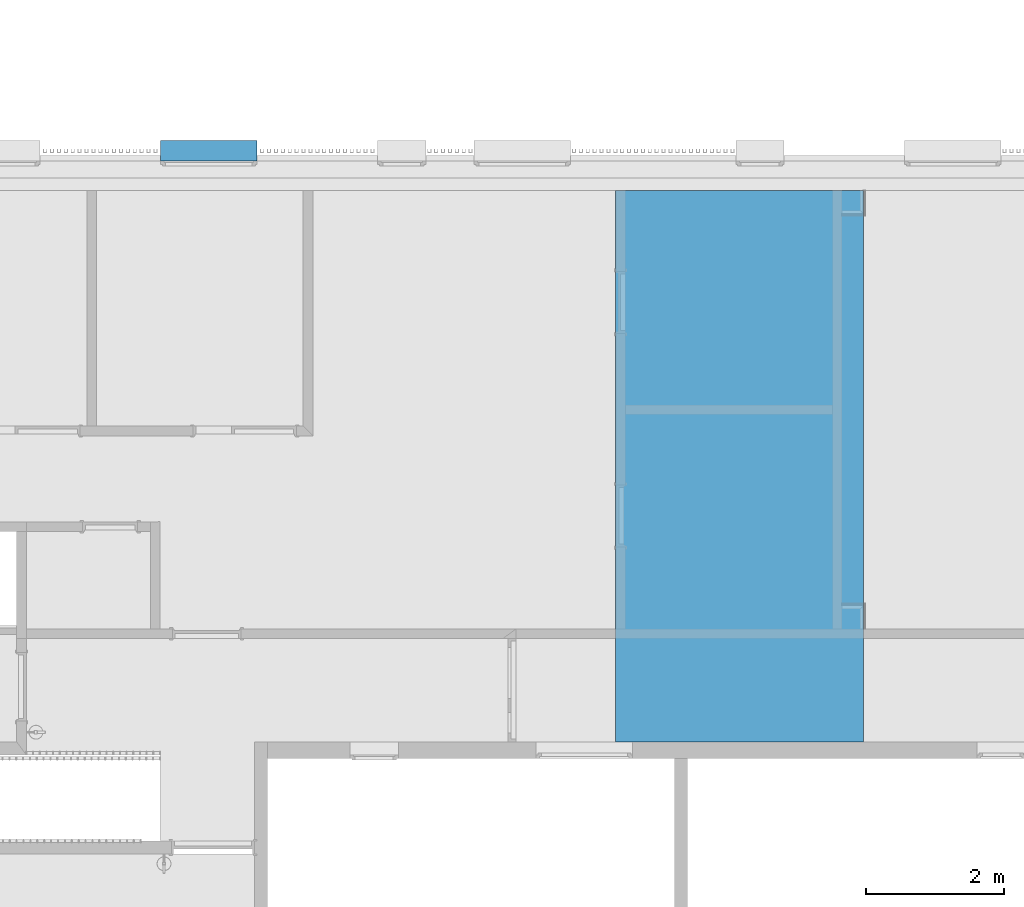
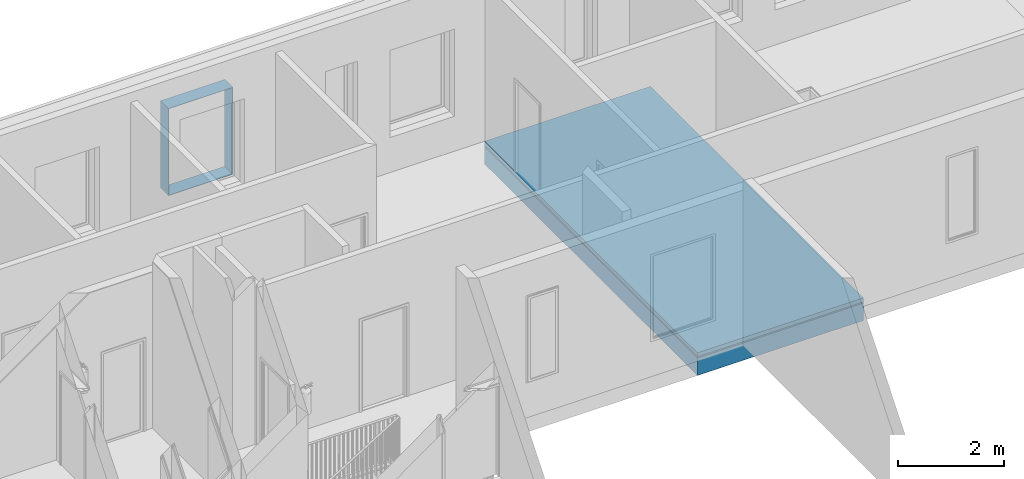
# One storey, part 21 of 100: 3 building element parts, 1 discrete accessory, 1 element without a shape of its own.
"""IFC2X3 building model written with IfcOpenShell, lengths in millimetres."""

from ifc_helpers import new_model, entity, si_unit, converted_unit, derived_unit, money_unit, direction, frame, origin_with_axes, place, context, subcontext, project, spatial, polyline, outline, extrude, faceted_brep, source, transform, mapped, material, type_object, element, aggregate, save


model = new_model("IFC2X3")

# Units and contexts
model_context = context("Model", 3, precision=0.01, world=origin_with_axes(), true_north=direction((0.0, 1.0)))
body_context = subcontext(model_context, "Body", "Model", "MODEL_VIEW")
ifc_project = project(units=[si_unit("LENGTHUNIT", "METRE", prefix="MILLI"), si_unit("AREAUNIT", "SQUARE_METRE"), si_unit("VOLUMEUNIT", "CUBIC_METRE"), converted_unit("PLANEANGLEUNIT", "DEGREE", entity("IfcPlaneAngleMeasure", 0.0174532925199), si_unit("PLANEANGLEUNIT", "RADIAN"), dimensions=[0, 0, 0, 0, 0, 0, 0]), si_unit("SOLIDANGLEUNIT", "STERADIAN"), money_unit("EUR"), converted_unit("TIMEUNIT", "Year", entity("IfcTimeMeasure", 31556926.0), si_unit("TIMEUNIT", "SECOND"), dimensions=[0, 0, 1, 0, 0, 0, 0]), si_unit("MASSUNIT", "GRAM", prefix="KILO"), si_unit("THERMODYNAMICTEMPERATUREUNIT", "DEGREE_CELSIUS"), si_unit("LUMINOUSINTENSITYUNIT", "LUMEN"), si_unit("ENERGYUNIT", "JOULE", prefix="MEGA"), derived_unit("THERMALCONDUCTANCEUNIT", [(si_unit("POWERUNIT", "WATT"), 1), (si_unit("LENGTHUNIT", "METRE"), -1), (si_unit("THERMODYNAMICTEMPERATUREUNIT", "KELVIN"), -1)]), derived_unit("SPECIFICHEATCAPACITYUNIT", [(si_unit("ENERGYUNIT", "JOULE"), 1), (si_unit("MASSUNIT", "GRAM", prefix="KILO"), -1), (si_unit("THERMODYNAMICTEMPERATUREUNIT", "KELVIN"), -1)]), derived_unit("MASSDENSITYUNIT", [(si_unit("MASSUNIT", "GRAM", prefix="KILO"), 1), (si_unit("VOLUMEUNIT", "CUBIC_METRE"), -1)])], contexts=[model_context])

# Site, building, storey
site_placement = place(None, origin_with_axes())
site = spatial("IfcSite", under=ifc_project, at=site_placement, Name="Politse- ja Piirivalveameti ning Päästeameti ühishoone", CompositionType="ELEMENT")
building_placement = place(site_placement, origin_with_axes())
building = spatial("IfcBuilding", under=site, at=building_placement, Name="Politse- ja Piirivalveameti ning Päästeameti ühishoone", CompositionType="ELEMENT")
storey_placement = place(building_placement, frame((0.0, 0.0, 3800.0), z_axis=(0.0, 0.0, 1.0), x_axis=(1.0, 0.0, 0.0)))
storey = spatial("IfcBuildingStorey", under=building, at=storey_placement, Name="Teine korrus", CompositionType="ELEMENT", Elevation=3800.0)

# Discrete accessory
ifc_material_1 = material(Name="SV-01_Krohv - Kips")
discrete_accessory_type = type_object("IfcDiscreteAccessoryType", Name="Architrave 01 23")
shared_shape = source(origin_with_axes(), body_context, "Body", "Brep", [
    faceted_brep([(700.0, 0.0, -10.0), (700.0, -300.182356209, -10.0), (-700.0, -300.182356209, -10.0), (-700.0, 0.0, -10.0), (690.0, 0.0, 0.0), (690.0, -300.182356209, 0.0), (-690.0, -300.182356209, 0.0), (-690.0, 0.0, 0.0)], [[[0, 1, 2, 3]], [[4, 5, 1, 0]], [[1, 5, 6, 2]], [[3, 2, 6, 7]], [[0, 3, 7, 4]], [[7, 6, 5, 4]]]),
    faceted_brep([(-700.0, 0.0, -10.0), (-700.0, -300.182356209, -10.0), (-700.0, -300.182356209, 1990.0), (-700.0, 0.0, 1990.0), (-690.0, 0.0, 0.0), (-690.0, -300.182356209, 0.0), (-690.0, -300.182356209, 1980.0), (-690.0, 0.0, 1980.0)], [[[0, 1, 2, 3]], [[4, 5, 1, 0]], [[1, 5, 6, 2]], [[3, 2, 6, 7]], [[0, 3, 7, 4]], [[7, 6, 5, 4]]]),
    faceted_brep([(-700.0, 0.0, 1990.0), (-700.0, -300.182356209, 1990.0), (700.0, -300.182356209, 1990.0), (700.0, 0.0, 1990.0), (-690.0, 0.0, 1980.0), (-690.0, -300.182356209, 1980.0), (690.0, -300.182356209, 1980.0), (690.0, 0.0, 1980.0)], [[[0, 1, 2, 3]], [[4, 5, 1, 0]], [[1, 5, 6, 2]], [[3, 2, 6, 7]], [[0, 3, 7, 4]], [[7, 6, 5, 4]]]),
    faceted_brep([(700.0, 0.0, 1990.0), (700.0, -300.182356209, 1990.0), (700.0, -300.182356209, -10.0), (700.0, 0.0, -10.0), (690.0, 0.0, 1980.0), (690.0, -300.182356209, 1980.0), (690.0, -300.182356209, 0.0), (690.0, 0.0, 0.0)], [[[0, 1, 2, 3]], [[4, 5, 1, 0]], [[1, 5, 6, 2]], [[3, 2, 6, 7]], [[0, 3, 7, 4]], [[7, 6, 5, 4]]]),
])
discrete_accessory_placement = place(storey_placement, frame((25908.8836062, 21429.9520832, 810.0), z_axis=(0.0, 0.0, 1.0), x_axis=(-1.0, 0.0, 0.0)))
element("IfcDiscreteAccessory", 1, at=discrete_accessory_placement, inside=storey, type_object=discrete_accessory_type, material=ifc_material_1, Name="AKNARAAM 01", context=body_context, shape_type="MappedRepresentation", body=[
    mapped(shared_shape, transform((0.0, 0.0, 0.0))),
])

# Slab, building element parts
slab_type = type_object("IfcSlabType", Name="VL-05_Vahelagi   400 paneel 520", PredefinedType="NOTDEFINED")
slab_placement = place(storey_placement, frame((31810.0329152, 13000.0198611, 0.0), z_axis=(0.0, 0.0, 1.0), x_axis=(1.0, 0.0, 0.0)))
slab = element("IfcSlab", 2, at=slab_placement, inside=storey, type_object=slab_type, Name="VL-05", PredefinedType="NOTDEFINED")
ifc_material_2 = material(Name="KON-06_Raudbetoon - Konstruktsioon")
building_element_part_1_placement = place(slab_placement, origin_with_axes())
building_element_part_1 = element("IfcBuildingElementPart", 3, at=building_element_part_1_placement, material=ifc_material_2, Name="KON-06_Raudbetoon - Konstruktsioon", context=body_context, shape_type="SweptSolid", body=[
    extrude(outline(polyline([(0.0, 0.0), (3599.96147826, 0.0), (3599.99703758, 7999.84948607), (0.0, 7999.83692425), (0.0, 0.0)])), frame((0.0, 0.0, -520.0), z_axis=(0.0, 0.0, 1.0), x_axis=(1.0, 0.0, 0.0)), (0.0, 0.0, 1.0), 400.0),
])
ifc_material_3 = material(Name="SOJ-04_Soojustus - Mineraal Kõva")
building_element_part_2_placement = place(slab_placement, origin_with_axes())
building_element_part_2 = element("IfcBuildingElementPart", 4, at=building_element_part_2_placement, material=ifc_material_3, Name="SOJ-04_Soojustus - Mineraal Kõva", context=body_context, shape_type="SweptSolid", body=[
    extrude(outline(polyline([(0.0, 0.0), (3599.96147826, 0.0), (3599.99703758, 7999.84948607), (0.0, 7999.83692425), (0.0, 0.0)])), frame((0.0, 0.0, -120.0), z_axis=(0.0, 0.0, 1.0), x_axis=(1.0, 0.0, 0.0)), (0.0, 0.0, 1.0), 30.0),
])
ifc_material_4 = material(Name="VKR-01_Betoon")
building_element_part_3_placement = place(slab_placement, origin_with_axes())
building_element_part_3 = element("IfcBuildingElementPart", 5, at=building_element_part_3_placement, material=ifc_material_4, Name="VKR-01_Betoon", context=body_context, shape_type="SweptSolid", body=[
    extrude(outline(polyline([(0.0, 0.0), (3599.96147826, 0.0), (3599.99703758, 7999.84948607), (0.0, 7999.83692425), (0.0, 0.0)])), frame((0.0, 0.0, -90.0), z_axis=(0.0, 0.0, 1.0), x_axis=(1.0, 0.0, 0.0)), (0.0, 0.0, 1.0), 90.0),
])
aggregate(slab, [building_element_part_1, building_element_part_2, building_element_part_3])

save(model, "model.ifc")
